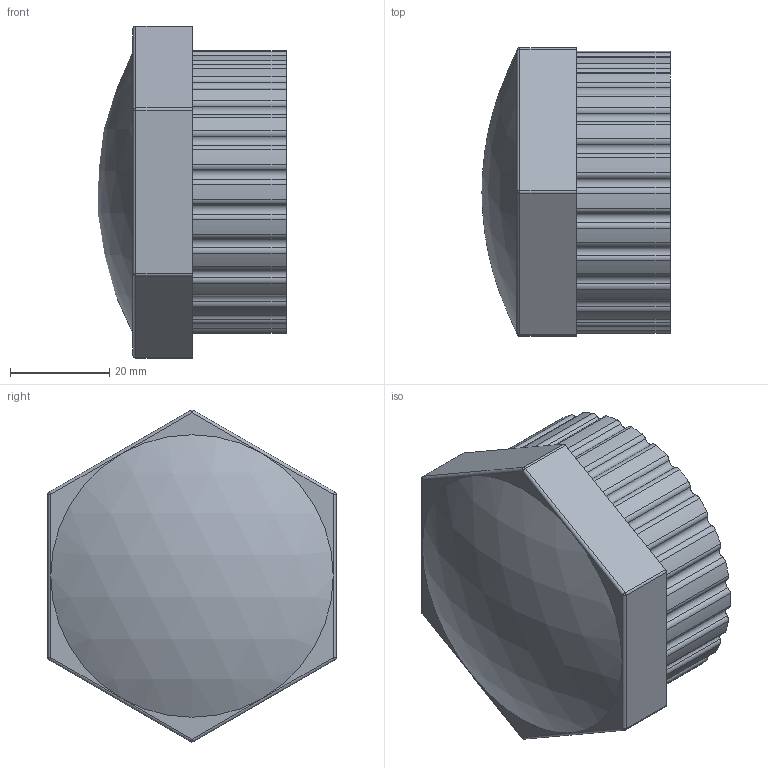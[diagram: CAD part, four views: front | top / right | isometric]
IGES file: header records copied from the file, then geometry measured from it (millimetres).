
Global section: file name: 050701015.ipt; native system: Autodesk Inventor 2015; preprocessor: unknown; author: KIM; date: 20171207.164846; units: millimetre
Bounding box: 37.85 x 58 x 66.79 mm (x, y, z)
Volume: 48789.8 mm3; surface area: 15524.9 mm2
Topology: 1 solids, 1 shells, 135 faces, 371 edges, 240 vertices
Faces by surface type: cylinder 87, revolution 27, plane 14, sphere 7
